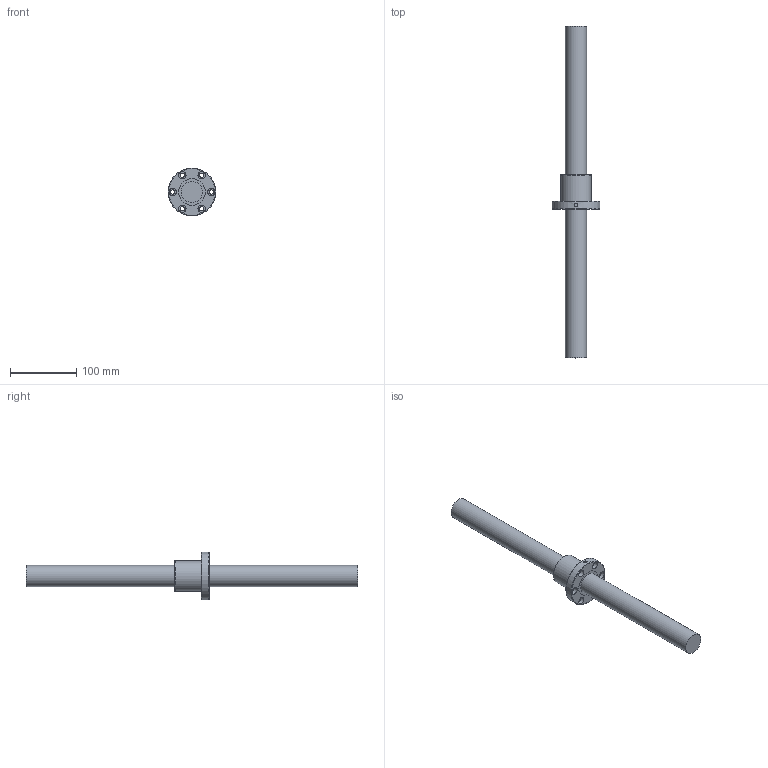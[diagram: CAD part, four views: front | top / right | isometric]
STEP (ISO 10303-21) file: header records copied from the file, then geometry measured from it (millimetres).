
FILE_DESCRIPTION(/* description */ (''),/* implementation_level */ '2;1');
FILE_NAME(/* name */ '3205.stp',/* time_stamp */ '2014-07-14T15:34:42+08:00',/* author */ (''),/* organization */ (''),/* preprocessor_version */ 'ST-DEVELOPER v11',/* originating_system */ 'SIEMENS UGS NX 6.0',/* authorisation */ '');
FILE_SCHEMA (('CONFIG_CONTROL_DESIGN'));
Length unit declared in the file: millimetre
Products named in the file (1): kcc27CCovfd
Bounding box: 72 x 500 x 72 mm (x, y, z)
Volume: 470656.6 mm3; surface area: 77697.9 mm2
Topology: 4 solids, 4 shells, 44 faces, 78 edges, 51 vertices
Faces by surface type: cylinder 23, plane 18, torus 3
Full cylindrical faces by diameter (mm): 5 x1, 6.5 x6, 11 x6, 32 x4, 40 x4, 46 x1, 72 x1
Entity records: 1104 total; most frequent: CARTESIAN_POINT 200, DIRECTION 186, EDGE_LOOP 98, ORIENTED_EDGE 98, FACE_BOUND 95, AXIS2_PLACEMENT_3D 93, VERTEX_POINT 49, EDGE_CURVE 49
